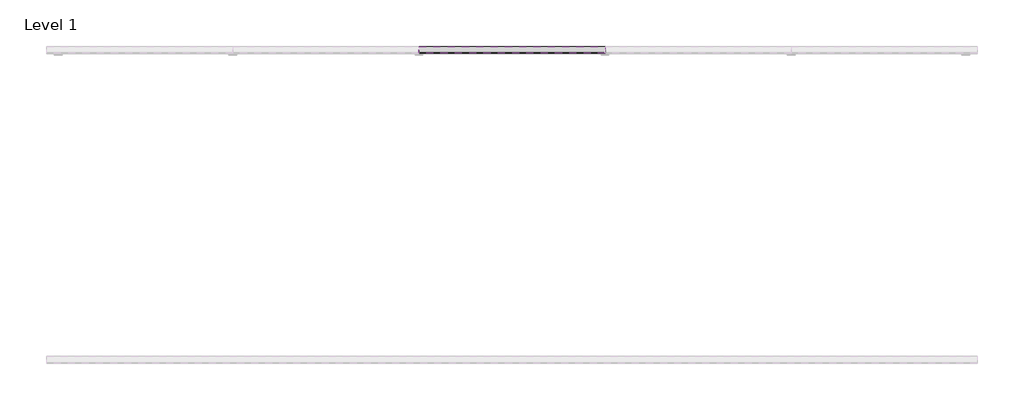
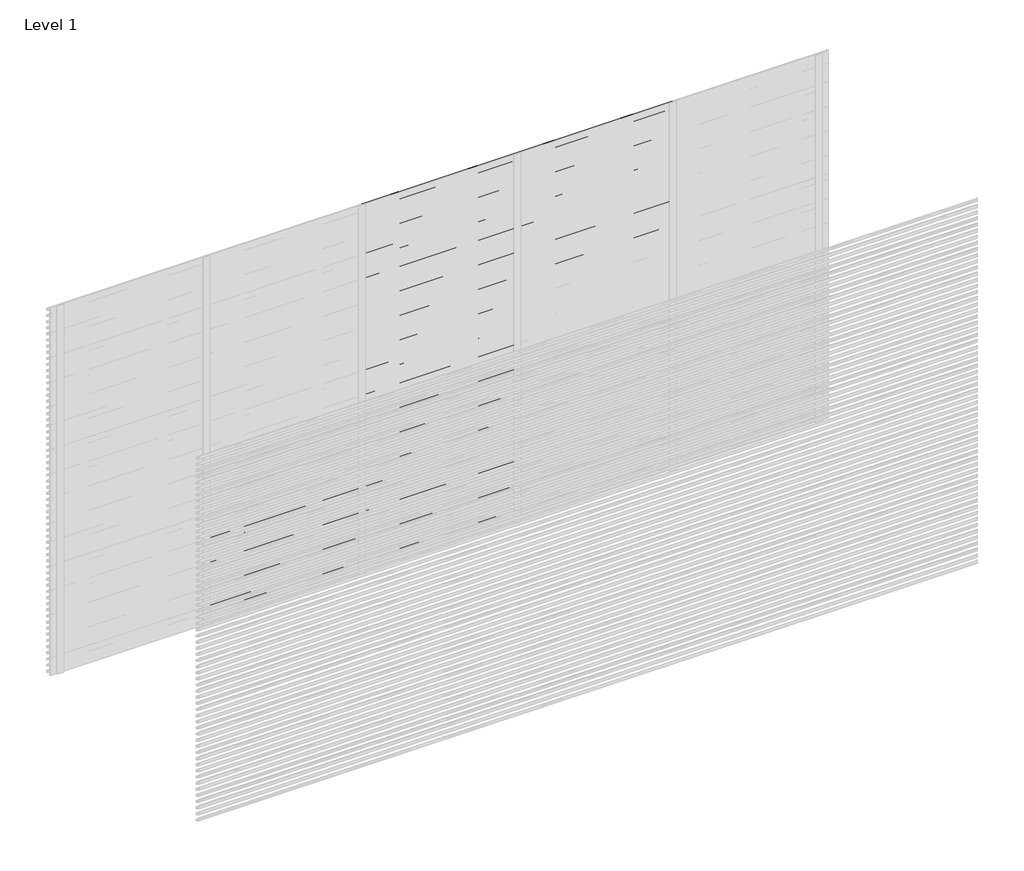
# One storey, part 15 of 16: 99 proxies.
"""IFC4 building model written with IfcOpenShell, lengths in millimetres."""

import ifcopenshell
import ifcopenshell.guid

model = None  # the IFC model being written
_history = None  # IfcOwnerHistory: only IFC2X3 demands one
_inside = {}  # id of a spatial element -> (the spatial element, [elements in it])
_under = {}  # id of a project, library or spatial element -> (it, [spatial elements below it])
_declared = {}  # id of a project -> (the project, [libraries it declares])
_typed = {}  # id of a type object -> (the type object, [elements of that type])
_made_of = {}  # id of a material, layer set ... -> (it, [elements and type objects made of it])


def new_model(schema):
    """Start an empty IFC model of exactly this schema.

    Asked for "IFC4X3", IfcOpenShell would pick the latest addendum, in which some entities
    have other attributes; the version numbers below select the first issue.
    IFC2X3 requires an IfcOwnerHistory on every rooted entity: one is made here for all.
    """
    global model, _history
    if schema == "IFC4X3":
        model = ifcopenshell.file(schema_version=(4, 3, 0, 0))
    else:
        model = ifcopenshell.file(schema=schema)
    _inside.clear()
    _under.clear()
    _declared.clear()
    _typed.clear()
    _made_of.clear()
    _history = None
    if model.schema == "IFC2X3":
        org = make("IfcOrganization", Name="unknown")
        user = make(
            "IfcPersonAndOrganization",
            ThePerson=make("IfcPerson", FamilyName="unknown"),
            TheOrganization=org,
        )
        app = make(
            "IfcApplication",
            ApplicationDeveloper=org,
            Version="unknown",
            ApplicationFullName="unknown",
            ApplicationIdentifier="unknown",
        )
        _history = make(
            "IfcOwnerHistory",
            OwningUser=user,
            OwningApplication=app,
            ChangeAction="ADDED",
            CreationDate=0,
        )
    return model


def make(cls, **values):
    """One entity of the class cls with the attributes given. An attribute that is None is left unset."""
    return model.create_entity(
        cls, **{name: value for name, value in values.items() if value is not None}
    )


def rooted(cls, **values):
    """An entity with a GlobalId (a new one), such as an element, a storey or a relation."""
    return make(cls, GlobalId=ifcopenshell.guid.new(), OwnerHistory=_history, **values)


def si_unit(unit_type, name, prefix=None):
    """IfcSIUnit, for example si_unit("LENGTHUNIT", "METRE", prefix="MILLI")."""
    return make("IfcSIUnit", UnitType=unit_type, Prefix=prefix, Name=name)


def assignment(units):
    """IfcUnitAssignment: the units of a project."""
    return None if units is None else make("IfcUnitAssignment", Units=units)


def point(xyz):
    """IfcCartesianPoint."""
    return None if xyz is None else make("IfcCartesianPoint", Coordinates=xyz)


def direction(xyz):
    """IfcDirection."""
    return None if xyz is None else make("IfcDirection", DirectionRatios=xyz)


def frame(location, z_axis=None, x_axis=None):
    """IfcAxis2Placement3D, a coordinate frame: its origin and axes. An axis left out is left unset."""
    return make(
        "IfcAxis2Placement3D",
        Location=point(location),
        Axis=direction(z_axis),
        RefDirection=direction(x_axis),
    )


def origin():
    """The frame at (0, 0, 0) with its axes left unset."""
    return frame((0.0, 0.0, 0.0))


def place(relative_to, where):
    """IfcLocalPlacement: puts the frame where relative to a parent placement (None: the world)."""
    return make(
        "IfcLocalPlacement", PlacementRelTo=relative_to, RelativePlacement=where
    )


def context(
    kind, dimensions, precision=None, world=None, true_north=None, identifier=None
):
    """IfcGeometricRepresentationContext, for example the 3D "Model" context."""
    return make(
        "IfcGeometricRepresentationContext",
        ContextIdentifier=identifier,
        ContextType=kind,
        CoordinateSpaceDimension=dimensions,
        Precision=precision,
        WorldCoordinateSystem=world,
        TrueNorth=true_north,
    )


def project(units=None, contexts=None):
    """IfcProject with its units and contexts."""
    return rooted(
        "IfcProject",
        Name="project",
        RepresentationContexts=contexts,
        UnitsInContext=assignment(units),
    )


def spatial(cls, under=None, at=None, **own):
    """A site, building, storey or space (cls), placed at a placement, below another one or the project."""
    s = rooted(cls, ObjectPlacement=at, **own)
    if under is not None:
        _under.setdefault(under.id(), (under, []))[1].append(s)
    return s


def polyline(points):
    """IfcPolyline through the points."""
    return make("IfcPolyline", Points=[point(p) for p in points])


def outline(outer, holes=None, kind="AREA"):
    """IfcArbitraryClosedProfileDef: a profile drawn as a closed curve; with holes, ...WithVoids."""
    if holes is None:
        return make("IfcArbitraryClosedProfileDef", ProfileType=kind, OuterCurve=outer)
    return make(
        "IfcArbitraryProfileDefWithVoids",
        ProfileType=kind,
        OuterCurve=outer,
        InnerCurves=holes,
    )


def extrude(swept, where, along, depth):
    """IfcExtrudedAreaSolid: the profile swept, set in the frame where, extruded along a direction by depth."""
    return make(
        "IfcExtrudedAreaSolid",
        SweptArea=swept,
        Position=where,
        ExtrudedDirection=direction(along),
        Depth=depth,
    )


def shape(context_of_items, identifier, shape_type, items):
    """IfcShapeRepresentation: the items that make up one representation, for example the "Body"."""
    return make(
        "IfcShapeRepresentation",
        ContextOfItems=context_of_items,
        RepresentationIdentifier=identifier,
        RepresentationType=shape_type,
        Items=items,
    )


def made_of(thing, what):
    """Note that an element or type object is made of a material, layer set ...; save() writes the relation."""
    if what is not None:
        _made_of.setdefault(what.id(), (what, []))[1].append(thing)
    return thing


def element(
    cls,
    number,
    at=None,
    inside=None,
    cuts=None,
    type_object=None,
    material=None,
    context=None,
    identifier="Body",
    shape_type=None,
    held_by="IfcProductDefinitionShape",
    body=None,
    shapes=None,
    **own,
):
    """One element of the class cls, such as IfcWall. Its Tag is "e" and its number.

    at: its placement. inside: the storey or other place that contains it. cuts: it is an
    opening in that element (IfcRelVoidsElement). A single representation is given by context,
    identifier, shape_type and body (its items); several are given by shapes. held_by: the class
    of the entity that holds the representations. save() writes the other relations.
    """
    e = rooted(cls, Tag="e%d" % number, ObjectPlacement=at, **own)
    if body is not None:
        shapes = [shape(context, identifier, shape_type, body)]
    if shapes is not None:
        e.Representation = make(held_by, Representations=shapes)
    if inside is not None:
        _inside.setdefault(inside.id(), (inside, []))[1].append(e)
    if cuts is not None:
        rooted(
            "IfcRelVoidsElement", RelatingBuildingElement=cuts, RelatedOpeningElement=e
        )
    if type_object is not None:
        _typed.setdefault(type_object.id(), (type_object, []))[1].append(e)
    return made_of(e, material)


def aggregate(whole, parts):
    """IfcRelAggregates: a whole, such as a stair, and the parts it consists of."""
    return rooted("IfcRelAggregates", RelatingObject=whole, RelatedObjects=parts)


def save(model, path):
    """Write the relations noted so far, then the file.

    IfcRelAggregates (storeys below a building ...), IfcRelContainedInSpatialStructure (elements
    in a storey), IfcRelDefinesByType, IfcRelAssociatesMaterial and IfcRelDeclares: one each for
    every whole, place, type object, material and project.
    """
    for whole, parts in _under.values():
        aggregate(whole, parts)
    for where, things in _inside.values():
        rooted(
            "IfcRelContainedInSpatialStructure",
            RelatedElements=things,
            RelatingStructure=where,
        )
    for kind, things in _typed.values():
        rooted("IfcRelDefinesByType", RelatedObjects=things, RelatingType=kind)
    for what, things in _made_of.values():
        rooted("IfcRelAssociatesMaterial", RelatedObjects=things, RelatingMaterial=what)
    for by, libraries in _declared.values():
        rooted("IfcRelDeclares", RelatingContext=by, RelatedDefinitions=libraries)
    model.write(path)


model = new_model("IFC4")

# Units and contexts
model_context = context("Model", 3, world=origin())
ifc_project = project(units=[si_unit("LENGTHUNIT", "METRE", prefix="MILLI")], contexts=[model_context])

# Site, building, storey
site = spatial("IfcSite", under=ifc_project)
building = spatial("IfcBuilding", under=site)
storey = spatial("IfcBuildingStorey", under=building, Name="Level 1", Elevation=0.0)

# Proxies
placement = place(None, origin())
element("IfcBuildingElementProxy", 1, Name="Wall Sweeps", at=placement, inside=storey, context=model_context, shape_type="SweptSolid", body=[
    extrude(outline(polyline([(5.0, 750.0), (5.0, 739.6352854), (46.0, 715.0), (46.0, 700.0), (3.0, 725.8370066), (3.0, 750.0), (5.0, 750.0)])), frame((1200.0, 0.0, 0.0), z_axis=(1.0, 0.0, 0.0), x_axis=(0.0, 1.0, 0.0)), (0.0, 0.0, 1.0), 1200.0),
])
element("IfcBuildingElementProxy", 2, Name="Wall Sweeps", at=placement, inside=storey, context=model_context, shape_type="SweptSolid", body=[
    extrude(outline(polyline([(5.0, 700.0), (5.0, 689.6352854), (46.0, 665.0), (46.0, 650.0), (3.0, 675.8370066), (3.0, 700.0), (5.0, 700.0)])), frame((1200.0, 0.0, 0.0), z_axis=(1.0, 0.0, 0.0), x_axis=(0.0, 1.0, 0.0)), (0.0, 0.0, 1.0), 1200.0),
])
element("IfcBuildingElementProxy", 3, Name="Wall Sweeps", at=placement, inside=storey, context=model_context, shape_type="SweptSolid", body=[
    extrude(outline(polyline([(5.0, 650.0), (5.0, 639.6352854), (46.0, 615.0), (46.0, 600.0), (3.0, 625.8370066), (3.0, 650.0), (5.0, 650.0)])), frame((1200.0, 0.0, 0.0), z_axis=(1.0, 0.0, 0.0), x_axis=(0.0, 1.0, 0.0)), (0.0, 0.0, 1.0), 1200.0),
])
element("IfcBuildingElementProxy", 4, Name="Wall Sweeps", at=placement, inside=storey, context=model_context, shape_type="SweptSolid", body=[
    extrude(outline(polyline([(5.0, 600.0), (5.0, 589.6352854), (46.0, 565.0), (46.0, 550.0), (3.0, 575.8370066), (3.0, 600.0), (5.0, 600.0)])), frame((1200.0, 0.0, 0.0), z_axis=(1.0, 0.0, 0.0), x_axis=(0.0, 1.0, 0.0)), (0.0, 0.0, 1.0), 1200.0),
])
element("IfcBuildingElementProxy", 5, Name="Wall Sweeps", at=placement, inside=storey, context=model_context, shape_type="SweptSolid", body=[
    extrude(outline(polyline([(5.0, 550.0), (5.0, 539.6352854), (46.0, 515.0), (46.0, 500.0), (3.0, 525.8370066), (3.0, 550.0), (5.0, 550.0)])), frame((1200.0, 0.0, 0.0), z_axis=(1.0, 0.0, 0.0), x_axis=(0.0, 1.0, 0.0)), (0.0, 0.0, 1.0), 1200.0),
])
element("IfcBuildingElementProxy", 6, Name="Wall Sweeps", at=placement, inside=storey, context=model_context, shape_type="SweptSolid", body=[
    extrude(outline(polyline([(5.0, 500.0), (5.0, 489.6352854), (46.0, 465.0), (46.0, 450.0), (3.0, 475.8370066), (3.0, 500.0), (5.0, 500.0)])), frame((1200.0, 0.0, 0.0), z_axis=(1.0, 0.0, 0.0), x_axis=(0.0, 1.0, 0.0)), (0.0, 0.0, 1.0), 1200.0),
])
element("IfcBuildingElementProxy", 7, Name="Wall Sweeps", at=placement, inside=storey, context=model_context, shape_type="SweptSolid", body=[
    extrude(outline(polyline([(5.0, 450.0), (5.0, 439.6352854), (46.0, 415.0), (46.0, 400.0), (3.0, 425.8370066), (3.0, 450.0), (5.0, 450.0)])), frame((1200.0, 0.0, 0.0), z_axis=(1.0, 0.0, 0.0), x_axis=(0.0, 1.0, 0.0)), (0.0, 0.0, 1.0), 1200.0),
])
element("IfcBuildingElementProxy", 8, Name="Wall Sweeps", at=placement, inside=storey, context=model_context, shape_type="SweptSolid", body=[
    extrude(outline(polyline([(5.0, 400.0), (5.0, 389.6352854), (46.0, 365.0), (46.0, 350.0), (3.0, 375.8370066), (3.0, 400.0), (5.0, 400.0)])), frame((1200.0, 0.0, 0.0), z_axis=(1.0, 0.0, 0.0), x_axis=(0.0, 1.0, 0.0)), (0.0, 0.0, 1.0), 1200.0),
])
element("IfcBuildingElementProxy", 9, Name="Wall Sweeps", at=placement, inside=storey, context=model_context, shape_type="SweptSolid", body=[
    extrude(outline(polyline([(5.0, 350.0), (5.0, 339.6352854), (46.0, 315.0), (46.0, 300.0), (3.0, 325.8370066), (3.0, 350.0), (5.0, 350.0)])), frame((1200.0, 0.0, 0.0), z_axis=(1.0, 0.0, 0.0), x_axis=(0.0, 1.0, 0.0)), (0.0, 0.0, 1.0), 1200.0),
])
element("IfcBuildingElementProxy", 10, Name="Wall Sweeps", at=placement, inside=storey, context=model_context, shape_type="SweptSolid", body=[
    extrude(outline(polyline([(5.0, 300.0), (5.0, 289.6352854), (46.0, 265.0), (46.0, 250.0), (3.0, 275.8370066), (3.0, 300.0), (5.0, 300.0)])), frame((1200.0, 0.0, 0.0), z_axis=(1.0, 0.0, 0.0), x_axis=(0.0, 1.0, 0.0)), (0.0, 0.0, 1.0), 1200.0),
])
element("IfcBuildingElementProxy", 11, Name="Wall Sweeps", at=placement, inside=storey, context=model_context, shape_type="SweptSolid", body=[
    extrude(outline(polyline([(5.0, 250.0), (5.0, 239.6352854), (46.0, 215.0), (46.0, 200.0), (3.0, 225.8370066), (3.0, 250.0), (5.0, 250.0)])), frame((1200.0, 0.0, 0.0), z_axis=(1.0, 0.0, 0.0), x_axis=(0.0, 1.0, 0.0)), (0.0, 0.0, 1.0), 1200.0),
])
element("IfcBuildingElementProxy", 12, Name="Wall Sweeps", at=placement, inside=storey, context=model_context, shape_type="SweptSolid", body=[
    extrude(outline(polyline([(5.0, 200.0), (5.0, 189.6352854), (46.0, 165.0), (46.0, 150.0), (3.0, 175.8370066), (3.0, 200.0), (5.0, 200.0)])), frame((1200.0, 0.0, 0.0), z_axis=(1.0, 0.0, 0.0), x_axis=(0.0, 1.0, 0.0)), (0.0, 0.0, 1.0), 1200.0),
])
element("IfcBuildingElementProxy", 13, Name="Wall Sweeps", at=placement, inside=storey, context=model_context, shape_type="SweptSolid", body=[
    extrude(outline(polyline([(5.0, 150.0), (5.0, 139.6352854), (46.0, 115.0), (46.0, 100.0), (3.0, 125.8370066), (3.0, 150.0), (5.0, 150.0)])), frame((1200.0, 0.0, 0.0), z_axis=(1.0, 0.0, 0.0), x_axis=(0.0, 1.0, 0.0)), (0.0, 0.0, 1.0), 1200.0),
])
element("IfcBuildingElementProxy", 14, Name="Wall Sweeps", at=placement, inside=storey, context=model_context, shape_type="SweptSolid", body=[
    extrude(outline(polyline([(5.0, 100.0), (5.0, 89.6352854), (46.0, 65.0), (46.0, 50.0), (3.0, 75.8370066), (3.0, 100.0), (5.0, 100.0)])), frame((1200.0, 0.0, 0.0), z_axis=(1.0, 0.0, 0.0), x_axis=(0.0, 1.0, 0.0)), (0.0, 0.0, 1.0), 1200.0),
])
element("IfcBuildingElementProxy", 15, Name="Wall Sweeps", at=placement, inside=storey, context=model_context, shape_type="SweptSolid", body=[
    extrude(outline(polyline([(5.0, 50.0), (5.0, 39.6352854), (46.0, 15.0), (46.0, 0.0), (3.0, 25.8370066), (3.0, 50.0), (5.0, 50.0)])), frame((1200.0, 0.0, 0.0), z_axis=(1.0, 0.0, 0.0), x_axis=(0.0, 1.0, 0.0)), (0.0, 0.0, 1.0), 1200.0),
])
element("IfcBuildingElementProxy", 16, Name="Wall Sweeps", at=placement, inside=storey, context=model_context, shape_type="SweptSolid", body=[
    extrude(outline(polyline([(5.0, 3000.0), (5.0, 2989.6352854), (46.0, 2965.0), (46.0, 2950.0), (3.0, 2975.8370066), (3.0, 3000.0), (5.0, 3000.0)])), frame((2400.0, 0.0, 0.0), z_axis=(1.0, 0.0, 0.0), x_axis=(0.0, 1.0, 0.0)), (0.0, 0.0, 1.0), 1200.0),
])
element("IfcBuildingElementProxy", 17, Name="Wall Sweeps", at=placement, inside=storey, context=model_context, shape_type="SweptSolid", body=[
    extrude(outline(polyline([(5.0, 2950.0), (5.0, 2939.6352854), (46.0, 2915.0), (46.0, 2900.0), (3.0, 2925.8370066), (3.0, 2950.0), (5.0, 2950.0)])), frame((2400.0, 0.0, 0.0), z_axis=(1.0, 0.0, 0.0), x_axis=(0.0, 1.0, 0.0)), (0.0, 0.0, 1.0), 1200.0),
])
element("IfcBuildingElementProxy", 18, Name="Wall Sweeps", at=placement, inside=storey, context=model_context, shape_type="SweptSolid", body=[
    extrude(outline(polyline([(5.0, 2900.0), (5.0, 2889.6352854), (46.0, 2865.0), (46.0, 2850.0), (3.0, 2875.8370066), (3.0, 2900.0), (5.0, 2900.0)])), frame((2400.0, 0.0, 0.0), z_axis=(1.0, 0.0, 0.0), x_axis=(0.0, 1.0, 0.0)), (0.0, 0.0, 1.0), 1200.0),
])
element("IfcBuildingElementProxy", 19, Name="Wall Sweeps", at=placement, inside=storey, context=model_context, shape_type="SweptSolid", body=[
    extrude(outline(polyline([(5.0, 2850.0), (5.0, 2839.6352854), (46.0, 2815.0), (46.0, 2800.0), (3.0, 2825.8370066), (3.0, 2850.0), (5.0, 2850.0)])), frame((2400.0, 0.0, 0.0), z_axis=(1.0, 0.0, 0.0), x_axis=(0.0, 1.0, 0.0)), (0.0, 0.0, 1.0), 1200.0),
])
element("IfcBuildingElementProxy", 20, Name="Wall Sweeps", at=placement, inside=storey, context=model_context, shape_type="SweptSolid", body=[
    extrude(outline(polyline([(5.0, 2800.0), (5.0, 2789.6352854), (46.0, 2765.0), (46.0, 2750.0), (3.0, 2775.8370066), (3.0, 2800.0), (5.0, 2800.0)])), frame((2400.0, 0.0, 0.0), z_axis=(1.0, 0.0, 0.0), x_axis=(0.0, 1.0, 0.0)), (0.0, 0.0, 1.0), 1200.0),
])
element("IfcBuildingElementProxy", 21, Name="Wall Sweeps", at=placement, inside=storey, context=model_context, shape_type="SweptSolid", body=[
    extrude(outline(polyline([(5.0, 2750.0), (5.0, 2739.6352854), (46.0, 2715.0), (46.0, 2700.0), (3.0, 2725.8370066), (3.0, 2750.0), (5.0, 2750.0)])), frame((2400.0, 0.0, 0.0), z_axis=(1.0, 0.0, 0.0), x_axis=(0.0, 1.0, 0.0)), (0.0, 0.0, 1.0), 1200.0),
])
element("IfcBuildingElementProxy", 22, Name="Wall Sweeps", at=placement, inside=storey, context=model_context, shape_type="SweptSolid", body=[
    extrude(outline(polyline([(5.0, 2700.0), (5.0, 2689.6352854), (46.0, 2665.0), (46.0, 2650.0), (3.0, 2675.8370066), (3.0, 2700.0), (5.0, 2700.0)])), frame((2400.0, 0.0, 0.0), z_axis=(1.0, 0.0, 0.0), x_axis=(0.0, 1.0, 0.0)), (0.0, 0.0, 1.0), 1200.0),
])
element("IfcBuildingElementProxy", 23, Name="Wall Sweeps", at=placement, inside=storey, context=model_context, shape_type="SweptSolid", body=[
    extrude(outline(polyline([(5.0, 2650.0), (5.0, 2639.6352854), (46.0, 2615.0), (46.0, 2600.0), (3.0, 2625.8370066), (3.0, 2650.0), (5.0, 2650.0)])), frame((2400.0, 0.0, 0.0), z_axis=(1.0, 0.0, 0.0), x_axis=(0.0, 1.0, 0.0)), (0.0, 0.0, 1.0), 1200.0),
])
element("IfcBuildingElementProxy", 24, Name="Wall Sweeps", at=placement, inside=storey, context=model_context, shape_type="SweptSolid", body=[
    extrude(outline(polyline([(5.0, 2600.0), (5.0, 2589.6352854), (46.0, 2565.0), (46.0, 2550.0), (3.0, 2575.8370066), (3.0, 2600.0), (5.0, 2600.0)])), frame((2400.0, 0.0, 0.0), z_axis=(1.0, 0.0, 0.0), x_axis=(0.0, 1.0, 0.0)), (0.0, 0.0, 1.0), 1200.0),
])
element("IfcBuildingElementProxy", 25, Name="Wall Sweeps", at=placement, inside=storey, context=model_context, shape_type="SweptSolid", body=[
    extrude(outline(polyline([(5.0, 2550.0), (5.0, 2539.6352854), (46.0, 2515.0), (46.0, 2500.0), (3.0, 2525.8370066), (3.0, 2550.0), (5.0, 2550.0)])), frame((2400.0, 0.0, 0.0), z_axis=(1.0, 0.0, 0.0), x_axis=(0.0, 1.0, 0.0)), (0.0, 0.0, 1.0), 1200.0),
])
element("IfcBuildingElementProxy", 26, Name="Wall Sweeps", at=placement, inside=storey, context=model_context, shape_type="SweptSolid", body=[
    extrude(outline(polyline([(5.0, 2500.0), (5.0, 2489.6352854), (46.0, 2465.0), (46.0, 2450.0), (3.0, 2475.8370066), (3.0, 2500.0), (5.0, 2500.0)])), frame((2400.0, 0.0, 0.0), z_axis=(1.0, 0.0, 0.0), x_axis=(0.0, 1.0, 0.0)), (0.0, 0.0, 1.0), 1200.0),
])
element("IfcBuildingElementProxy", 27, Name="Wall Sweeps", at=placement, inside=storey, context=model_context, shape_type="SweptSolid", body=[
    extrude(outline(polyline([(5.0, 2450.0), (5.0, 2439.6352854), (46.0, 2415.0), (46.0, 2400.0), (3.0, 2425.8370066), (3.0, 2450.0), (5.0, 2450.0)])), frame((2400.0, 0.0, 0.0), z_axis=(1.0, 0.0, 0.0), x_axis=(0.0, 1.0, 0.0)), (0.0, 0.0, 1.0), 1200.0),
])
element("IfcBuildingElementProxy", 28, Name="Wall Sweeps", at=placement, inside=storey, context=model_context, shape_type="SweptSolid", body=[
    extrude(outline(polyline([(5.0, 2400.0), (5.0, 2389.6352854), (46.0, 2365.0), (46.0, 2350.0), (3.0, 2375.8370066), (3.0, 2400.0), (5.0, 2400.0)])), frame((2400.0, 0.0, 0.0), z_axis=(1.0, 0.0, 0.0), x_axis=(0.0, 1.0, 0.0)), (0.0, 0.0, 1.0), 1200.0),
])
element("IfcBuildingElementProxy", 29, Name="Wall Sweeps", at=placement, inside=storey, context=model_context, shape_type="SweptSolid", body=[
    extrude(outline(polyline([(5.0, 2350.0), (5.0, 2339.6352854), (46.0, 2315.0), (46.0, 2300.0), (3.0, 2325.8370066), (3.0, 2350.0), (5.0, 2350.0)])), frame((2400.0, 0.0, 0.0), z_axis=(1.0, 0.0, 0.0), x_axis=(0.0, 1.0, 0.0)), (0.0, 0.0, 1.0), 1200.0),
])
element("IfcBuildingElementProxy", 30, Name="Wall Sweeps", at=placement, inside=storey, context=model_context, shape_type="SweptSolid", body=[
    extrude(outline(polyline([(5.0, 2300.0), (5.0, 2289.6352854), (46.0, 2265.0), (46.0, 2250.0), (3.0, 2275.8370066), (3.0, 2300.0), (5.0, 2300.0)])), frame((2400.0, 0.0, 0.0), z_axis=(1.0, 0.0, 0.0), x_axis=(0.0, 1.0, 0.0)), (0.0, 0.0, 1.0), 1200.0),
])
element("IfcBuildingElementProxy", 31, Name="Wall Sweeps", at=placement, inside=storey, context=model_context, shape_type="SweptSolid", body=[
    extrude(outline(polyline([(5.0, 2250.0), (5.0, 2239.6352854), (46.0, 2215.0), (46.0, 2200.0), (3.0, 2225.8370066), (3.0, 2250.0), (5.0, 2250.0)])), frame((2400.0, 0.0, 0.0), z_axis=(1.0, 0.0, 0.0), x_axis=(0.0, 1.0, 0.0)), (0.0, 0.0, 1.0), 1200.0),
])
element("IfcBuildingElementProxy", 32, Name="Wall Sweeps", at=placement, inside=storey, context=model_context, shape_type="SweptSolid", body=[
    extrude(outline(polyline([(5.0, 2200.0), (5.0, 2189.6352854), (46.0, 2165.0), (46.0, 2150.0), (3.0, 2175.8370066), (3.0, 2200.0), (5.0, 2200.0)])), frame((2400.0, 0.0, 0.0), z_axis=(1.0, 0.0, 0.0), x_axis=(0.0, 1.0, 0.0)), (0.0, 0.0, 1.0), 1200.0),
])
element("IfcBuildingElementProxy", 33, Name="Wall Sweeps", at=placement, inside=storey, context=model_context, shape_type="SweptSolid", body=[
    extrude(outline(polyline([(5.0, 2150.0), (5.0, 2139.6352854), (46.0, 2115.0), (46.0, 2100.0), (3.0, 2125.8370066), (3.0, 2150.0), (5.0, 2150.0)])), frame((2400.0, 0.0, 0.0), z_axis=(1.0, 0.0, 0.0), x_axis=(0.0, 1.0, 0.0)), (0.0, 0.0, 1.0), 1200.0),
])
element("IfcBuildingElementProxy", 34, Name="Wall Sweeps", at=placement, inside=storey, context=model_context, shape_type="SweptSolid", body=[
    extrude(outline(polyline([(5.0, 2100.0), (5.0, 2089.6352854), (46.0, 2065.0), (46.0, 2050.0), (3.0, 2075.8370066), (3.0, 2100.0), (5.0, 2100.0)])), frame((2400.0, 0.0, 0.0), z_axis=(1.0, 0.0, 0.0), x_axis=(0.0, 1.0, 0.0)), (0.0, 0.0, 1.0), 1200.0),
])
element("IfcBuildingElementProxy", 35, Name="Wall Sweeps", at=placement, inside=storey, context=model_context, shape_type="SweptSolid", body=[
    extrude(outline(polyline([(5.0, 2050.0), (5.0, 2039.6352854), (46.0, 2015.0), (46.0, 2000.0), (3.0, 2025.8370066), (3.0, 2050.0), (5.0, 2050.0)])), frame((2400.0, 0.0, 0.0), z_axis=(1.0, 0.0, 0.0), x_axis=(0.0, 1.0, 0.0)), (0.0, 0.0, 1.0), 1200.0),
])
element("IfcBuildingElementProxy", 36, Name="Wall Sweeps", at=placement, inside=storey, context=model_context, shape_type="SweptSolid", body=[
    extrude(outline(polyline([(5.0, 2000.0), (5.0, 1989.6352854), (46.0, 1965.0), (46.0, 1950.0), (3.0, 1975.8370066), (3.0, 2000.0), (5.0, 2000.0)])), frame((2400.0, 0.0, 0.0), z_axis=(1.0, 0.0, 0.0), x_axis=(0.0, 1.0, 0.0)), (0.0, 0.0, 1.0), 1200.0),
])
element("IfcBuildingElementProxy", 37, Name="Wall Sweeps", at=placement, inside=storey, context=model_context, shape_type="SweptSolid", body=[
    extrude(outline(polyline([(5.0, 1950.0), (5.0, 1939.6352854), (46.0, 1915.0), (46.0, 1900.0), (3.0, 1925.8370066), (3.0, 1950.0), (5.0, 1950.0)])), frame((2400.0, 0.0, 0.0), z_axis=(1.0, 0.0, 0.0), x_axis=(0.0, 1.0, 0.0)), (0.0, 0.0, 1.0), 1200.0),
])
element("IfcBuildingElementProxy", 38, Name="Wall Sweeps", at=placement, inside=storey, context=model_context, shape_type="SweptSolid", body=[
    extrude(outline(polyline([(5.0, 1900.0), (5.0, 1889.6352854), (46.0, 1865.0), (46.0, 1850.0), (3.0, 1875.8370066), (3.0, 1900.0), (5.0, 1900.0)])), frame((2400.0, 0.0, 0.0), z_axis=(1.0, 0.0, 0.0), x_axis=(0.0, 1.0, 0.0)), (0.0, 0.0, 1.0), 1200.0),
])
element("IfcBuildingElementProxy", 39, Name="Wall Sweeps", at=placement, inside=storey, context=model_context, shape_type="SweptSolid", body=[
    extrude(outline(polyline([(5.0, 1850.0), (5.0, 1839.6352854), (46.0, 1815.0), (46.0, 1800.0), (3.0, 1825.8370066), (3.0, 1850.0), (5.0, 1850.0)])), frame((2400.0, 0.0, 0.0), z_axis=(1.0, 0.0, 0.0), x_axis=(0.0, 1.0, 0.0)), (0.0, 0.0, 1.0), 1200.0),
])
element("IfcBuildingElementProxy", 40, Name="Wall Sweeps", at=placement, inside=storey, context=model_context, shape_type="SweptSolid", body=[
    extrude(outline(polyline([(5.0, 1800.0), (5.0, 1789.6352854), (46.0, 1765.0), (46.0, 1750.0), (3.0, 1775.8370066), (3.0, 1800.0), (5.0, 1800.0)])), frame((2400.0, 0.0, 0.0), z_axis=(1.0, 0.0, 0.0), x_axis=(0.0, 1.0, 0.0)), (0.0, 0.0, 1.0), 1200.0),
])
element("IfcBuildingElementProxy", 41, Name="Wall Sweeps", at=placement, inside=storey, context=model_context, shape_type="SweptSolid", body=[
    extrude(outline(polyline([(5.0, 1750.0), (5.0, 1739.6352854), (46.0, 1715.0), (46.0, 1700.0), (3.0, 1725.8370066), (3.0, 1750.0), (5.0, 1750.0)])), frame((2400.0, 0.0, 0.0), z_axis=(1.0, 0.0, 0.0), x_axis=(0.0, 1.0, 0.0)), (0.0, 0.0, 1.0), 1200.0),
])
element("IfcBuildingElementProxy", 42, Name="Wall Sweeps", at=placement, inside=storey, context=model_context, shape_type="SweptSolid", body=[
    extrude(outline(polyline([(5.0, 1700.0), (5.0, 1689.6352854), (46.0, 1665.0), (46.0, 1650.0), (3.0, 1675.8370066), (3.0, 1700.0), (5.0, 1700.0)])), frame((2400.0, 0.0, 0.0), z_axis=(1.0, 0.0, 0.0), x_axis=(0.0, 1.0, 0.0)), (0.0, 0.0, 1.0), 1200.0),
])
element("IfcBuildingElementProxy", 43, Name="Wall Sweeps", at=placement, inside=storey, context=model_context, shape_type="SweptSolid", body=[
    extrude(outline(polyline([(5.0, 1650.0), (5.0, 1639.6352854), (46.0, 1615.0), (46.0, 1600.0), (3.0, 1625.8370066), (3.0, 1650.0), (5.0, 1650.0)])), frame((2400.0, 0.0, 0.0), z_axis=(1.0, 0.0, 0.0), x_axis=(0.0, 1.0, 0.0)), (0.0, 0.0, 1.0), 1200.0),
])
element("IfcBuildingElementProxy", 44, Name="Wall Sweeps", at=placement, inside=storey, context=model_context, shape_type="SweptSolid", body=[
    extrude(outline(polyline([(5.0, 1600.0), (5.0, 1589.6352854), (46.0, 1565.0), (46.0, 1550.0), (3.0, 1575.8370066), (3.0, 1600.0), (5.0, 1600.0)])), frame((2400.0, 0.0, 0.0), z_axis=(1.0, 0.0, 0.0), x_axis=(0.0, 1.0, 0.0)), (0.0, 0.0, 1.0), 1200.0),
])
element("IfcBuildingElementProxy", 45, Name="Wall Sweeps", at=placement, inside=storey, context=model_context, shape_type="SweptSolid", body=[
    extrude(outline(polyline([(5.0, 1550.0), (5.0, 1539.6352854), (46.0, 1515.0), (46.0, 1500.0), (3.0, 1525.8370066), (3.0, 1550.0), (5.0, 1550.0)])), frame((2400.0, 0.0, 0.0), z_axis=(1.0, 0.0, 0.0), x_axis=(0.0, 1.0, 0.0)), (0.0, 0.0, 1.0), 1200.0),
])
element("IfcBuildingElementProxy", 46, Name="Wall Sweeps", at=placement, inside=storey, context=model_context, shape_type="SweptSolid", body=[
    extrude(outline(polyline([(5.0, 1500.0), (5.0, 1489.6352854), (46.0, 1465.0), (46.0, 1450.0), (3.0, 1475.8370066), (3.0, 1500.0), (5.0, 1500.0)])), frame((2400.0, 0.0, 0.0), z_axis=(1.0, 0.0, 0.0), x_axis=(0.0, 1.0, 0.0)), (0.0, 0.0, 1.0), 1200.0),
])
element("IfcBuildingElementProxy", 47, Name="Wall Sweeps", at=placement, inside=storey, context=model_context, shape_type="SweptSolid", body=[
    extrude(outline(polyline([(5.0, 1450.0), (5.0, 1439.6352854), (46.0, 1415.0), (46.0, 1400.0), (3.0, 1425.8370066), (3.0, 1450.0), (5.0, 1450.0)])), frame((2400.0, 0.0, 0.0), z_axis=(1.0, 0.0, 0.0), x_axis=(0.0, 1.0, 0.0)), (0.0, 0.0, 1.0), 1200.0),
])
element("IfcBuildingElementProxy", 48, Name="Wall Sweeps", at=placement, inside=storey, context=model_context, shape_type="SweptSolid", body=[
    extrude(outline(polyline([(5.0, 1400.0), (5.0, 1389.6352854), (46.0, 1365.0), (46.0, 1350.0), (3.0, 1375.8370066), (3.0, 1400.0), (5.0, 1400.0)])), frame((2400.0, 0.0, 0.0), z_axis=(1.0, 0.0, 0.0), x_axis=(0.0, 1.0, 0.0)), (0.0, 0.0, 1.0), 1200.0),
])
element("IfcBuildingElementProxy", 49, Name="Wall Sweeps", at=placement, inside=storey, context=model_context, shape_type="SweptSolid", body=[
    extrude(outline(polyline([(5.0, 1350.0), (5.0, 1339.6352854), (46.0, 1315.0), (46.0, 1300.0), (3.0, 1325.8370066), (3.0, 1350.0), (5.0, 1350.0)])), frame((2400.0, 0.0, 0.0), z_axis=(1.0, 0.0, 0.0), x_axis=(0.0, 1.0, 0.0)), (0.0, 0.0, 1.0), 1200.0),
])
element("IfcBuildingElementProxy", 50, Name="Wall Sweeps", at=placement, inside=storey, context=model_context, shape_type="SweptSolid", body=[
    extrude(outline(polyline([(5.0, 1300.0), (5.0, 1289.6352854), (46.0, 1265.0), (46.0, 1250.0), (3.0, 1275.8370066), (3.0, 1300.0), (5.0, 1300.0)])), frame((2400.0, 0.0, 0.0), z_axis=(1.0, 0.0, 0.0), x_axis=(0.0, 1.0, 0.0)), (0.0, 0.0, 1.0), 1200.0),
])
element("IfcBuildingElementProxy", 51, Name="Wall Sweeps", at=placement, inside=storey, context=model_context, shape_type="SweptSolid", body=[
    extrude(outline(polyline([(5.0, 1250.0), (5.0, 1239.6352854), (46.0, 1215.0), (46.0, 1200.0), (3.0, 1225.8370066), (3.0, 1250.0), (5.0, 1250.0)])), frame((2400.0, 0.0, 0.0), z_axis=(1.0, 0.0, 0.0), x_axis=(0.0, 1.0, 0.0)), (0.0, 0.0, 1.0), 1200.0),
])
element("IfcBuildingElementProxy", 52, Name="Wall Sweeps", at=placement, inside=storey, context=model_context, shape_type="SweptSolid", body=[
    extrude(outline(polyline([(5.0, 1200.0), (5.0, 1189.6352854), (46.0, 1165.0), (46.0, 1150.0), (3.0, 1175.8370066), (3.0, 1200.0), (5.0, 1200.0)])), frame((2400.0, 0.0, 0.0), z_axis=(1.0, 0.0, 0.0), x_axis=(0.0, 1.0, 0.0)), (0.0, 0.0, 1.0), 1200.0),
])
element("IfcBuildingElementProxy", 53, Name="Wall Sweeps", at=placement, inside=storey, context=model_context, shape_type="SweptSolid", body=[
    extrude(outline(polyline([(5.0, 1150.0), (5.0, 1139.6352854), (46.0, 1115.0), (46.0, 1100.0), (3.0, 1125.8370066), (3.0, 1150.0), (5.0, 1150.0)])), frame((2400.0, 0.0, 0.0), z_axis=(1.0, 0.0, 0.0), x_axis=(0.0, 1.0, 0.0)), (0.0, 0.0, 1.0), 1200.0),
])
element("IfcBuildingElementProxy", 54, Name="Wall Sweeps", at=placement, inside=storey, context=model_context, shape_type="SweptSolid", body=[
    extrude(outline(polyline([(5.0, 1100.0), (5.0, 1089.6352854), (46.0, 1065.0), (46.0, 1050.0), (3.0, 1075.8370066), (3.0, 1100.0), (5.0, 1100.0)])), frame((2400.0, 0.0, 0.0), z_axis=(1.0, 0.0, 0.0), x_axis=(0.0, 1.0, 0.0)), (0.0, 0.0, 1.0), 1200.0),
])
element("IfcBuildingElementProxy", 55, Name="Wall Sweeps", at=placement, inside=storey, context=model_context, shape_type="SweptSolid", body=[
    extrude(outline(polyline([(5.0, 1050.0), (5.0, 1039.6352854), (46.0, 1015.0), (46.0, 1000.0), (3.0, 1025.8370066), (3.0, 1050.0), (5.0, 1050.0)])), frame((2400.0, 0.0, 0.0), z_axis=(1.0, 0.0, 0.0), x_axis=(0.0, 1.0, 0.0)), (0.0, 0.0, 1.0), 1200.0),
])
element("IfcBuildingElementProxy", 56, Name="Wall Sweeps", at=placement, inside=storey, context=model_context, shape_type="SweptSolid", body=[
    extrude(outline(polyline([(5.0, 1000.0), (5.0, 989.6352854), (46.0, 965.0), (46.0, 950.0), (3.0, 975.8370066), (3.0, 1000.0), (5.0, 1000.0)])), frame((2400.0, 0.0, 0.0), z_axis=(1.0, 0.0, 0.0), x_axis=(0.0, 1.0, 0.0)), (0.0, 0.0, 1.0), 1200.0),
])
element("IfcBuildingElementProxy", 57, Name="Wall Sweeps", at=placement, inside=storey, context=model_context, shape_type="SweptSolid", body=[
    extrude(outline(polyline([(5.0, 950.0), (5.0, 939.6352854), (46.0, 915.0), (46.0, 900.0), (3.0, 925.8370066), (3.0, 950.0), (5.0, 950.0)])), frame((2400.0, 0.0, 0.0), z_axis=(1.0, 0.0, 0.0), x_axis=(0.0, 1.0, 0.0)), (0.0, 0.0, 1.0), 1200.0),
])
element("IfcBuildingElementProxy", 58, Name="Wall Sweeps", at=placement, inside=storey, context=model_context, shape_type="SweptSolid", body=[
    extrude(outline(polyline([(5.0, 900.0), (5.0, 889.6352854), (46.0, 865.0), (46.0, 850.0), (3.0, 875.8370066), (3.0, 900.0), (5.0, 900.0)])), frame((2400.0, 0.0, 0.0), z_axis=(1.0, 0.0, 0.0), x_axis=(0.0, 1.0, 0.0)), (0.0, 0.0, 1.0), 1200.0),
])
element("IfcBuildingElementProxy", 59, Name="Wall Sweeps", at=placement, inside=storey, context=model_context, shape_type="SweptSolid", body=[
    extrude(outline(polyline([(5.0, 850.0), (5.0, 839.6352854), (46.0, 815.0), (46.0, 800.0), (3.0, 825.8370066), (3.0, 850.0), (5.0, 850.0)])), frame((2400.0, 0.0, 0.0), z_axis=(1.0, 0.0, 0.0), x_axis=(0.0, 1.0, 0.0)), (0.0, 0.0, 1.0), 1200.0),
])
element("IfcBuildingElementProxy", 60, Name="Wall Sweeps", at=placement, inside=storey, context=model_context, shape_type="SweptSolid", body=[
    extrude(outline(polyline([(5.0, 800.0), (5.0, 789.6352854), (46.0, 765.0), (46.0, 750.0), (3.0, 775.8370066), (3.0, 800.0), (5.0, 800.0)])), frame((2400.0, 0.0, 0.0), z_axis=(1.0, 0.0, 0.0), x_axis=(0.0, 1.0, 0.0)), (0.0, 0.0, 1.0), 1200.0),
])
element("IfcBuildingElementProxy", 61, Name="Wall Sweeps", at=placement, inside=storey, context=model_context, shape_type="SweptSolid", body=[
    extrude(outline(polyline([(5.0, 750.0), (5.0, 739.6352854), (46.0, 715.0), (46.0, 700.0), (3.0, 725.8370066), (3.0, 750.0), (5.0, 750.0)])), frame((2400.0, 0.0, 0.0), z_axis=(1.0, 0.0, 0.0), x_axis=(0.0, 1.0, 0.0)), (0.0, 0.0, 1.0), 1200.0),
])
element("IfcBuildingElementProxy", 62, Name="Wall Sweeps", at=placement, inside=storey, context=model_context, shape_type="SweptSolid", body=[
    extrude(outline(polyline([(5.0, 700.0), (5.0, 689.6352854), (46.0, 665.0), (46.0, 650.0), (3.0, 675.8370066), (3.0, 700.0), (5.0, 700.0)])), frame((2400.0, 0.0, 0.0), z_axis=(1.0, 0.0, 0.0), x_axis=(0.0, 1.0, 0.0)), (0.0, 0.0, 1.0), 1200.0),
])
element("IfcBuildingElementProxy", 63, Name="Wall Sweeps", at=placement, inside=storey, context=model_context, shape_type="SweptSolid", body=[
    extrude(outline(polyline([(5.0, 650.0), (5.0, 639.6352854), (46.0, 615.0), (46.0, 600.0), (3.0, 625.8370066), (3.0, 650.0), (5.0, 650.0)])), frame((2400.0, 0.0, 0.0), z_axis=(1.0, 0.0, 0.0), x_axis=(0.0, 1.0, 0.0)), (0.0, 0.0, 1.0), 1200.0),
])
element("IfcBuildingElementProxy", 64, Name="Wall Sweeps", at=placement, inside=storey, context=model_context, shape_type="SweptSolid", body=[
    extrude(outline(polyline([(5.0, 600.0), (5.0, 589.6352854), (46.0, 565.0), (46.0, 550.0), (3.0, 575.8370066), (3.0, 600.0), (5.0, 600.0)])), frame((2400.0, 0.0, 0.0), z_axis=(1.0, 0.0, 0.0), x_axis=(0.0, 1.0, 0.0)), (0.0, 0.0, 1.0), 1200.0),
])
element("IfcBuildingElementProxy", 65, Name="Wall Sweeps", at=placement, inside=storey, context=model_context, shape_type="SweptSolid", body=[
    extrude(outline(polyline([(5.0, 550.0), (5.0, 539.6352854), (46.0, 515.0), (46.0, 500.0), (3.0, 525.8370066), (3.0, 550.0), (5.0, 550.0)])), frame((2400.0, 0.0, 0.0), z_axis=(1.0, 0.0, 0.0), x_axis=(0.0, 1.0, 0.0)), (0.0, 0.0, 1.0), 1200.0),
])
element("IfcBuildingElementProxy", 66, Name="Wall Sweeps", at=placement, inside=storey, context=model_context, shape_type="SweptSolid", body=[
    extrude(outline(polyline([(5.0, 500.0), (5.0, 489.6352854), (46.0, 465.0), (46.0, 450.0), (3.0, 475.8370066), (3.0, 500.0), (5.0, 500.0)])), frame((2400.0, 0.0, 0.0), z_axis=(1.0, 0.0, 0.0), x_axis=(0.0, 1.0, 0.0)), (0.0, 0.0, 1.0), 1200.0),
])
element("IfcBuildingElementProxy", 67, Name="Wall Sweeps", at=placement, inside=storey, context=model_context, shape_type="SweptSolid", body=[
    extrude(outline(polyline([(5.0, 450.0), (5.0, 439.6352854), (46.0, 415.0), (46.0, 400.0), (3.0, 425.8370066), (3.0, 450.0), (5.0, 450.0)])), frame((2400.0, 0.0, 0.0), z_axis=(1.0, 0.0, 0.0), x_axis=(0.0, 1.0, 0.0)), (0.0, 0.0, 1.0), 1200.0),
])
element("IfcBuildingElementProxy", 68, Name="Wall Sweeps", at=placement, inside=storey, context=model_context, shape_type="SweptSolid", body=[
    extrude(outline(polyline([(5.0, 400.0), (5.0, 389.6352854), (46.0, 365.0), (46.0, 350.0), (3.0, 375.8370066), (3.0, 400.0), (5.0, 400.0)])), frame((2400.0, 0.0, 0.0), z_axis=(1.0, 0.0, 0.0), x_axis=(0.0, 1.0, 0.0)), (0.0, 0.0, 1.0), 1200.0),
])
element("IfcBuildingElementProxy", 69, Name="Wall Sweeps", at=placement, inside=storey, context=model_context, shape_type="SweptSolid", body=[
    extrude(outline(polyline([(5.0, 350.0), (5.0, 339.6352854), (46.0, 315.0), (46.0, 300.0), (3.0, 325.8370066), (3.0, 350.0), (5.0, 350.0)])), frame((2400.0, 0.0, 0.0), z_axis=(1.0, 0.0, 0.0), x_axis=(0.0, 1.0, 0.0)), (0.0, 0.0, 1.0), 1200.0),
])
element("IfcBuildingElementProxy", 70, Name="Wall Sweeps", at=placement, inside=storey, context=model_context, shape_type="SweptSolid", body=[
    extrude(outline(polyline([(5.0, 300.0), (5.0, 289.6352854), (46.0, 265.0), (46.0, 250.0), (3.0, 275.8370066), (3.0, 300.0), (5.0, 300.0)])), frame((2400.0, 0.0, 0.0), z_axis=(1.0, 0.0, 0.0), x_axis=(0.0, 1.0, 0.0)), (0.0, 0.0, 1.0), 1200.0),
])
element("IfcBuildingElementProxy", 71, Name="Wall Sweeps", at=placement, inside=storey, context=model_context, shape_type="SweptSolid", body=[
    extrude(outline(polyline([(5.0, 250.0), (5.0, 239.6352854), (46.0, 215.0), (46.0, 200.0), (3.0, 225.8370066), (3.0, 250.0), (5.0, 250.0)])), frame((2400.0, 0.0, 0.0), z_axis=(1.0, 0.0, 0.0), x_axis=(0.0, 1.0, 0.0)), (0.0, 0.0, 1.0), 1200.0),
])
element("IfcBuildingElementProxy", 72, Name="Wall Sweeps", at=placement, inside=storey, context=model_context, shape_type="SweptSolid", body=[
    extrude(outline(polyline([(5.0, 200.0), (5.0, 189.6352854), (46.0, 165.0), (46.0, 150.0), (3.0, 175.8370066), (3.0, 200.0), (5.0, 200.0)])), frame((2400.0, 0.0, 0.0), z_axis=(1.0, 0.0, 0.0), x_axis=(0.0, 1.0, 0.0)), (0.0, 0.0, 1.0), 1200.0),
])
element("IfcBuildingElementProxy", 73, Name="Wall Sweeps", at=placement, inside=storey, context=model_context, shape_type="SweptSolid", body=[
    extrude(outline(polyline([(5.0, 150.0), (5.0, 139.6352854), (46.0, 115.0), (46.0, 100.0), (3.0, 125.8370066), (3.0, 150.0), (5.0, 150.0)])), frame((2400.0, 0.0, 0.0), z_axis=(1.0, 0.0, 0.0), x_axis=(0.0, 1.0, 0.0)), (0.0, 0.0, 1.0), 1200.0),
])
element("IfcBuildingElementProxy", 74, Name="Wall Sweeps", at=placement, inside=storey, context=model_context, shape_type="SweptSolid", body=[
    extrude(outline(polyline([(5.0, 100.0), (5.0, 89.6352854), (46.0, 65.0), (46.0, 50.0), (3.0, 75.8370066), (3.0, 100.0), (5.0, 100.0)])), frame((2400.0, 0.0, 0.0), z_axis=(1.0, 0.0, 0.0), x_axis=(0.0, 1.0, 0.0)), (0.0, 0.0, 1.0), 1200.0),
])
element("IfcBuildingElementProxy", 75, Name="Wall Sweeps", at=placement, inside=storey, context=model_context, shape_type="SweptSolid", body=[
    extrude(outline(polyline([(5.0, 50.0), (5.0, 39.6352854), (46.0, 15.0), (46.0, 0.0), (3.0, 25.8370066), (3.0, 50.0), (5.0, 50.0)])), frame((2400.0, 0.0, 0.0), z_axis=(1.0, 0.0, 0.0), x_axis=(0.0, 1.0, 0.0)), (0.0, 0.0, 1.0), 1200.0),
])
element("IfcBuildingElementProxy", 76, Name="Wall Sweeps", at=placement, inside=storey, context=model_context, shape_type="SweptSolid", body=[
    extrude(outline(polyline([(5.0, 3000.0), (5.0, 2989.6352854), (46.0, 2965.0), (46.0, 2950.0), (3.0, 2975.8370066), (3.0, 3000.0), (5.0, 3000.0)])), frame((3600.0, 0.0, 0.0), z_axis=(1.0, 0.0, 0.0), x_axis=(0.0, 1.0, 0.0)), (0.0, 0.0, 1.0), 1200.0),
])
element("IfcBuildingElementProxy", 77, Name="Wall Sweeps", at=placement, inside=storey, context=model_context, shape_type="SweptSolid", body=[
    extrude(outline(polyline([(5.0, 2950.0), (5.0, 2939.6352854), (46.0, 2915.0), (46.0, 2900.0), (3.0, 2925.8370066), (3.0, 2950.0), (5.0, 2950.0)])), frame((3600.0, 0.0, 0.0), z_axis=(1.0, 0.0, 0.0), x_axis=(0.0, 1.0, 0.0)), (0.0, 0.0, 1.0), 1200.0),
])
element("IfcBuildingElementProxy", 78, Name="Wall Sweeps", at=placement, inside=storey, context=model_context, shape_type="SweptSolid", body=[
    extrude(outline(polyline([(5.0, 2900.0), (5.0, 2889.6352854), (46.0, 2865.0), (46.0, 2850.0), (3.0, 2875.8370066), (3.0, 2900.0), (5.0, 2900.0)])), frame((3600.0, 0.0, 0.0), z_axis=(1.0, 0.0, 0.0), x_axis=(0.0, 1.0, 0.0)), (0.0, 0.0, 1.0), 1200.0),
])
element("IfcBuildingElementProxy", 79, Name="Wall Sweeps", at=placement, inside=storey, context=model_context, shape_type="SweptSolid", body=[
    extrude(outline(polyline([(5.0, 2850.0), (5.0, 2839.6352854), (46.0, 2815.0), (46.0, 2800.0), (3.0, 2825.8370066), (3.0, 2850.0), (5.0, 2850.0)])), frame((3600.0, 0.0, 0.0), z_axis=(1.0, 0.0, 0.0), x_axis=(0.0, 1.0, 0.0)), (0.0, 0.0, 1.0), 1200.0),
])
element("IfcBuildingElementProxy", 80, Name="Wall Sweeps", at=placement, inside=storey, context=model_context, shape_type="SweptSolid", body=[
    extrude(outline(polyline([(5.0, 2800.0), (5.0, 2789.6352854), (46.0, 2765.0), (46.0, 2750.0), (3.0, 2775.8370066), (3.0, 2800.0), (5.0, 2800.0)])), frame((3600.0, 0.0, 0.0), z_axis=(1.0, 0.0, 0.0), x_axis=(0.0, 1.0, 0.0)), (0.0, 0.0, 1.0), 1200.0),
])
element("IfcBuildingElementProxy", 81, Name="Wall Sweeps", at=placement, inside=storey, context=model_context, shape_type="SweptSolid", body=[
    extrude(outline(polyline([(5.0, 2750.0), (5.0, 2739.6352854), (46.0, 2715.0), (46.0, 2700.0), (3.0, 2725.8370066), (3.0, 2750.0), (5.0, 2750.0)])), frame((3600.0, 0.0, 0.0), z_axis=(1.0, 0.0, 0.0), x_axis=(0.0, 1.0, 0.0)), (0.0, 0.0, 1.0), 1200.0),
])
element("IfcBuildingElementProxy", 82, Name="Wall Sweeps", at=placement, inside=storey, context=model_context, shape_type="SweptSolid", body=[
    extrude(outline(polyline([(5.0, 2700.0), (5.0, 2689.6352854), (46.0, 2665.0), (46.0, 2650.0), (3.0, 2675.8370066), (3.0, 2700.0), (5.0, 2700.0)])), frame((3600.0, 0.0, 0.0), z_axis=(1.0, 0.0, 0.0), x_axis=(0.0, 1.0, 0.0)), (0.0, 0.0, 1.0), 1200.0),
])
element("IfcBuildingElementProxy", 83, Name="Wall Sweeps", at=placement, inside=storey, context=model_context, shape_type="SweptSolid", body=[
    extrude(outline(polyline([(5.0, 2650.0), (5.0, 2639.6352854), (46.0, 2615.0), (46.0, 2600.0), (3.0, 2625.8370066), (3.0, 2650.0), (5.0, 2650.0)])), frame((3600.0, 0.0, 0.0), z_axis=(1.0, 0.0, 0.0), x_axis=(0.0, 1.0, 0.0)), (0.0, 0.0, 1.0), 1200.0),
])
element("IfcBuildingElementProxy", 84, Name="Wall Sweeps", at=placement, inside=storey, context=model_context, shape_type="SweptSolid", body=[
    extrude(outline(polyline([(5.0, 2600.0), (5.0, 2589.6352854), (46.0, 2565.0), (46.0, 2550.0), (3.0, 2575.8370066), (3.0, 2600.0), (5.0, 2600.0)])), frame((3600.0, 0.0, 0.0), z_axis=(1.0, 0.0, 0.0), x_axis=(0.0, 1.0, 0.0)), (0.0, 0.0, 1.0), 1200.0),
])
element("IfcBuildingElementProxy", 85, Name="Wall Sweeps", at=placement, inside=storey, context=model_context, shape_type="SweptSolid", body=[
    extrude(outline(polyline([(5.0, 2550.0), (5.0, 2539.6352854), (46.0, 2515.0), (46.0, 2500.0), (3.0, 2525.8370066), (3.0, 2550.0), (5.0, 2550.0)])), frame((3600.0, 0.0, 0.0), z_axis=(1.0, 0.0, 0.0), x_axis=(0.0, 1.0, 0.0)), (0.0, 0.0, 1.0), 1200.0),
])
element("IfcBuildingElementProxy", 86, Name="Wall Sweeps", at=placement, inside=storey, context=model_context, shape_type="SweptSolid", body=[
    extrude(outline(polyline([(5.0, 2500.0), (5.0, 2489.6352854), (46.0, 2465.0), (46.0, 2450.0), (3.0, 2475.8370066), (3.0, 2500.0), (5.0, 2500.0)])), frame((3600.0, 0.0, 0.0), z_axis=(1.0, 0.0, 0.0), x_axis=(0.0, 1.0, 0.0)), (0.0, 0.0, 1.0), 1200.0),
])
element("IfcBuildingElementProxy", 87, Name="Wall Sweeps", at=placement, inside=storey, context=model_context, shape_type="SweptSolid", body=[
    extrude(outline(polyline([(5.0, 2450.0), (5.0, 2439.6352854), (46.0, 2415.0), (46.0, 2400.0), (3.0, 2425.8370066), (3.0, 2450.0), (5.0, 2450.0)])), frame((3600.0, 0.0, 0.0), z_axis=(1.0, 0.0, 0.0), x_axis=(0.0, 1.0, 0.0)), (0.0, 0.0, 1.0), 1200.0),
])
element("IfcBuildingElementProxy", 88, Name="Wall Sweeps", at=placement, inside=storey, context=model_context, shape_type="SweptSolid", body=[
    extrude(outline(polyline([(5.0, 2400.0), (5.0, 2389.6352854), (46.0, 2365.0), (46.0, 2350.0), (3.0, 2375.8370066), (3.0, 2400.0), (5.0, 2400.0)])), frame((3600.0, 0.0, 0.0), z_axis=(1.0, 0.0, 0.0), x_axis=(0.0, 1.0, 0.0)), (0.0, 0.0, 1.0), 1200.0),
])
element("IfcBuildingElementProxy", 89, Name="Wall Sweeps", at=placement, inside=storey, context=model_context, shape_type="SweptSolid", body=[
    extrude(outline(polyline([(5.0, 2350.0), (5.0, 2339.6352854), (46.0, 2315.0), (46.0, 2300.0), (3.0, 2325.8370066), (3.0, 2350.0), (5.0, 2350.0)])), frame((3600.0, 0.0, 0.0), z_axis=(1.0, 0.0, 0.0), x_axis=(0.0, 1.0, 0.0)), (0.0, 0.0, 1.0), 1200.0),
])
element("IfcBuildingElementProxy", 90, Name="Wall Sweeps", at=placement, inside=storey, context=model_context, shape_type="SweptSolid", body=[
    extrude(outline(polyline([(5.0, 2300.0), (5.0, 2289.6352854), (46.0, 2265.0), (46.0, 2250.0), (3.0, 2275.8370066), (3.0, 2300.0), (5.0, 2300.0)])), frame((3600.0, 0.0, 0.0), z_axis=(1.0, 0.0, 0.0), x_axis=(0.0, 1.0, 0.0)), (0.0, 0.0, 1.0), 1200.0),
])
element("IfcBuildingElementProxy", 91, Name="Wall Sweeps", at=placement, inside=storey, context=model_context, shape_type="SweptSolid", body=[
    extrude(outline(polyline([(5.0, 2250.0), (5.0, 2239.6352854), (46.0, 2215.0), (46.0, 2200.0), (3.0, 2225.8370066), (3.0, 2250.0), (5.0, 2250.0)])), frame((3600.0, 0.0, 0.0), z_axis=(1.0, 0.0, 0.0), x_axis=(0.0, 1.0, 0.0)), (0.0, 0.0, 1.0), 1200.0),
])
element("IfcBuildingElementProxy", 92, Name="Wall Sweeps", at=placement, inside=storey, context=model_context, shape_type="SweptSolid", body=[
    extrude(outline(polyline([(5.0, 2200.0), (5.0, 2189.6352854), (46.0, 2165.0), (46.0, 2150.0), (3.0, 2175.8370066), (3.0, 2200.0), (5.0, 2200.0)])), frame((3600.0, 0.0, 0.0), z_axis=(1.0, 0.0, 0.0), x_axis=(0.0, 1.0, 0.0)), (0.0, 0.0, 1.0), 1200.0),
])
element("IfcBuildingElementProxy", 93, Name="Wall Sweeps", at=placement, inside=storey, context=model_context, shape_type="SweptSolid", body=[
    extrude(outline(polyline([(5.0, 2150.0), (5.0, 2139.6352854), (46.0, 2115.0), (46.0, 2100.0), (3.0, 2125.8370066), (3.0, 2150.0), (5.0, 2150.0)])), frame((3600.0, 0.0, 0.0), z_axis=(1.0, 0.0, 0.0), x_axis=(0.0, 1.0, 0.0)), (0.0, 0.0, 1.0), 1200.0),
])
element("IfcBuildingElementProxy", 94, Name="Wall Sweeps", at=placement, inside=storey, context=model_context, shape_type="SweptSolid", body=[
    extrude(outline(polyline([(5.0, 2100.0), (5.0, 2089.6352854), (46.0, 2065.0), (46.0, 2050.0), (3.0, 2075.8370066), (3.0, 2100.0), (5.0, 2100.0)])), frame((3600.0, 0.0, 0.0), z_axis=(1.0, 0.0, 0.0), x_axis=(0.0, 1.0, 0.0)), (0.0, 0.0, 1.0), 1200.0),
])
element("IfcBuildingElementProxy", 95, Name="Wall Sweeps", at=placement, inside=storey, context=model_context, shape_type="SweptSolid", body=[
    extrude(outline(polyline([(5.0, 2050.0), (5.0, 2039.6352854), (46.0, 2015.0), (46.0, 2000.0), (3.0, 2025.8370066), (3.0, 2050.0), (5.0, 2050.0)])), frame((3600.0, 0.0, 0.0), z_axis=(1.0, 0.0, 0.0), x_axis=(0.0, 1.0, 0.0)), (0.0, 0.0, 1.0), 1200.0),
])
element("IfcBuildingElementProxy", 96, Name="Wall Sweeps", at=placement, inside=storey, context=model_context, shape_type="SweptSolid", body=[
    extrude(outline(polyline([(5.0, 2000.0), (5.0, 1989.6352854), (46.0, 1965.0), (46.0, 1950.0), (3.0, 1975.8370066), (3.0, 2000.0), (5.0, 2000.0)])), frame((3600.0, 0.0, 0.0), z_axis=(1.0, 0.0, 0.0), x_axis=(0.0, 1.0, 0.0)), (0.0, 0.0, 1.0), 1200.0),
])
element("IfcBuildingElementProxy", 97, Name="Wall Sweeps", at=placement, inside=storey, context=model_context, shape_type="SweptSolid", body=[
    extrude(outline(polyline([(5.0, 1950.0), (5.0, 1939.6352854), (46.0, 1915.0), (46.0, 1900.0), (3.0, 1925.8370066), (3.0, 1950.0), (5.0, 1950.0)])), frame((3600.0, 0.0, 0.0), z_axis=(1.0, 0.0, 0.0), x_axis=(0.0, 1.0, 0.0)), (0.0, 0.0, 1.0), 1200.0),
])
element("IfcBuildingElementProxy", 98, Name="Wall Sweeps", at=placement, inside=storey, context=model_context, shape_type="SweptSolid", body=[
    extrude(outline(polyline([(5.0, 1900.0), (5.0, 1889.6352854), (46.0, 1865.0), (46.0, 1850.0), (3.0, 1875.8370066), (3.0, 1900.0), (5.0, 1900.0)])), frame((3600.0, 0.0, 0.0), z_axis=(1.0, 0.0, 0.0), x_axis=(0.0, 1.0, 0.0)), (0.0, 0.0, 1.0), 1200.0),
])
element("IfcBuildingElementProxy", 99, Name="Wall Sweeps", at=placement, inside=storey, context=model_context, shape_type="SweptSolid", body=[
    extrude(outline(polyline([(5.0, 1850.0), (5.0, 1839.6352854), (46.0, 1815.0), (46.0, 1800.0), (3.0, 1825.8370066), (3.0, 1850.0), (5.0, 1850.0)])), frame((3600.0, 0.0, 0.0), z_axis=(1.0, 0.0, 0.0), x_axis=(0.0, 1.0, 0.0)), (0.0, 0.0, 1.0), 1200.0),
])

save(model, "model.ifc")
